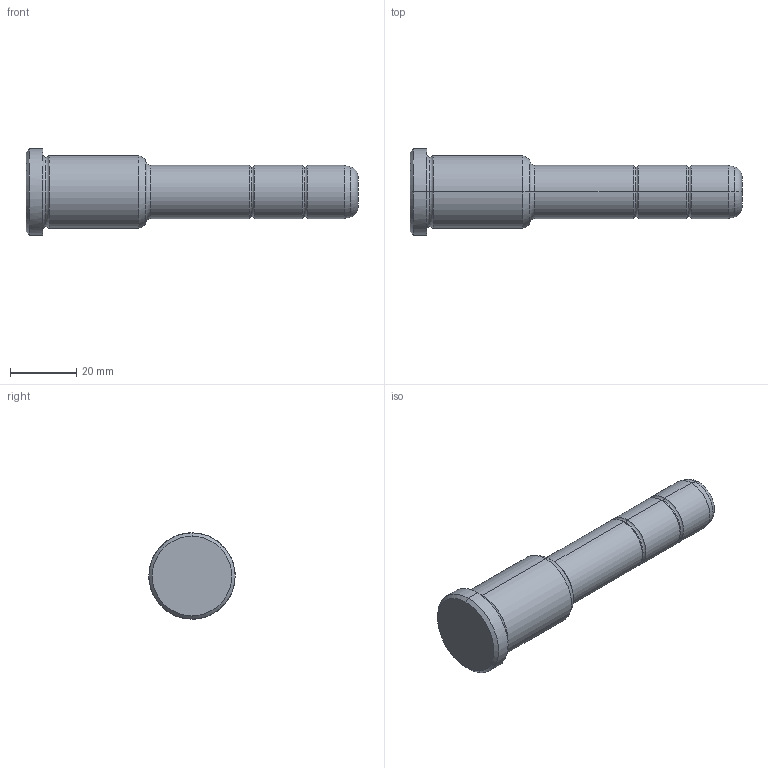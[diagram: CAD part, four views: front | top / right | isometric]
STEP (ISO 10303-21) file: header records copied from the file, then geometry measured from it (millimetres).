
FILE_DESCRIPTION(('CATIA V5 STEP Exchange'),'2;1');
FILE_NAME('C:\Users\Utente\Desktop\IO LAVORO\3D X SITO CF\X SITO\PLASTICA\351\351-16X36X100.stp','2021-08-18T11:37:05+00:00',('none'),('none'),'CATIA Version 5 Release 20 GA (IN-10)','CATIA V5 STEP AP203','none');
FILE_SCHEMA(('CONFIG_CONTROL_DESIGN'));
Length unit declared in the file: millimetre
Products named in the file (1): 351-16X36X100
Bounding box: 100 x 26 x 26 mm (x, y, z)
Volume: 26967.3 mm3; surface area: 6651.2 mm2
Topology: 1 solids, 1 shells, 36 faces, 102 edges, 70 vertices
Faces by surface type: torus 16, cylinder 10, cone 6, plane 4
Entity records: 1292 total; most frequent: CARTESIAN_POINT 321, ORIENTED_EDGE 204, DIRECTION 166, AXIS2_PLACEMENT_3D 115, EDGE_CURVE 102, CIRCLE 78, VERTEX_POINT 70, EDGE_LOOP 38
